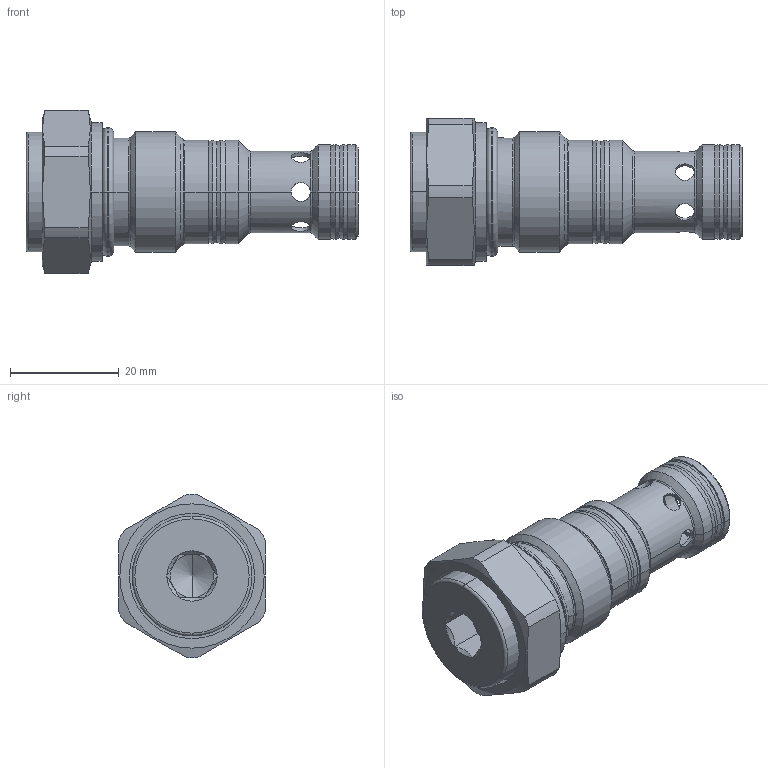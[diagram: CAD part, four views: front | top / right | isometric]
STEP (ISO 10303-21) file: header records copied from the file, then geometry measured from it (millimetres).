
FILE_DESCRIPTION((''),'2;1');
FILE_NAME('33192600_GEN_ASM','2018-01-31T',('l.soukupova'),(''),'PRO/ENGINEER BY PARAMETRIC TECHNOLOGY CORPORATION, 2015440','PRO/ENGINEER BY PARAMETRIC TECHNOLOGY CORPORATION, 2015440','');
FILE_SCHEMA(('AUTOMOTIVE_DESIGN { 1 0 10303 214 1 1 1 1 }'));
Length unit declared in the file: millimetre
Products named in the file (12): 33122800_AF0; 33122900_AF0; VSTI_M16X1_5_ED_AF0; D6_CSN_022925_AF0; 33148700_AF0; PRUZINA_SC5H_7BAR_HEN_AF0; 33123000_AF0; OR2101940_AF0; DUALSEAL_17_42X15_07_AF0; DUALSEAL_X_16_65X19X3_1_STL_AF0; TESNENI_DK142_AF0; 33192600_GEN_ASM
Assembly tree (11 placements, depth 2):
  33192600_GEN_ASM
    33122800_AF0
    33122900_AF0
    VSTI_M16X1_5_ED_AF0
    D6_CSN_022925_AF0
    33148700_AF0
    PRUZINA_SC5H_7BAR_HEN_AF0
    33123000_AF0
    OR2101940_AF0
    DUALSEAL_17_42X15_07_AF0
    DUALSEAL_X_16_65X19X3_1_STL_AF0
    TESNENI_DK142_AF0
Bounding box: 61 x 27 x 29.99 mm (x, y, z)
Volume: 10795.6 mm3; surface area: 12116.3 mm2
Topology: 5 solids, 8 shells, 195 faces, 463 edges, 303 vertices
Faces by surface type: cylinder 72, cone 58, plane 42, torus 23
Entity records: 9721 total; most frequent: CARTESIAN_POINT 2352, DIRECTION 1109, ORIENTED_EDGE 866, PRESENTATION_STYLE_ASSIGNMENT 536, STYLED_ITEM 536, AXIS2_PLACEMENT_3D 464, EDGE_CURVE 439, CURVE_STYLE 380
